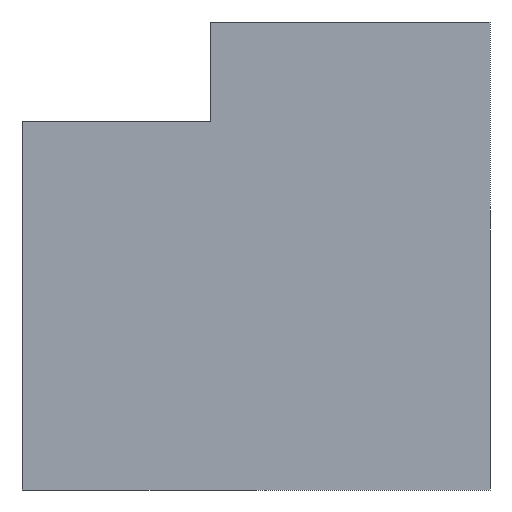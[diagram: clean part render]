
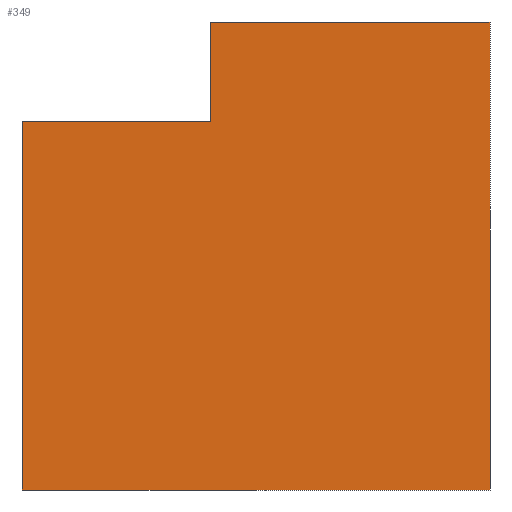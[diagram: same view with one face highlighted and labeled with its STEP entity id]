
A CAD part, left-side view. The second image highlights one B-rep face of the part: STEP entity #349.
In plain terms, the highlighted planar face has unit normal (-1, 0, 0).
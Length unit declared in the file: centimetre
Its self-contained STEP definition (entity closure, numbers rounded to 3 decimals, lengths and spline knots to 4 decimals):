
#21 = VECTOR ( 'NONE', #480, 100. ) ;
#49 = EDGE_CURVE ( 'NONE', #55, #237, #443, .T. ) ;
#55 = VERTEX_POINT ( 'NONE', #118 ) ;
#99 = DIRECTION ( 'NONE',  ( 0., 0., -1. ) ) ;
#101 = ORIENTED_EDGE ( 'NONE', *, *, #212, .T. ) ;
#106 = VECTOR ( 'NONE', #205, 100. ) ;
#116 = LINE ( 'NONE', #293, #248 ) ;
#118 = CARTESIAN_POINT ( 'NONE',  ( 0., 1000., 0. ) ) ;
#132 = ORIENTED_EDGE ( 'NONE', *, *, #373, .F. ) ;
#141 = ORIENTED_EDGE ( 'NONE', *, *, #169, .F. ) ;
#162 = CARTESIAN_POINT ( 'NONE',  ( 0., 1000., 1000. ) ) ;
#169 = EDGE_CURVE ( 'NONE', #408, #402, #378, .T. ) ;
#175 = EDGE_LOOP ( 'NONE', ( #389, #502, #101, #299, #132, #141 ) ) ;
#187 = CARTESIAN_POINT ( 'NONE',  ( 0., 0., 1000. ) ) ;
#205 = DIRECTION ( 'NONE',  ( 0., -1., 0. ) ) ;
#212 = EDGE_CURVE ( 'NONE', #565, #55, #116, .T. ) ;
#237 = VERTEX_POINT ( 'NONE', #416 ) ;
#248 = VECTOR ( 'NONE', #554, 100. ) ;
#255 = VECTOR ( 'NONE', #398, 100. ) ;
#256 = CARTESIAN_POINT ( 'NONE',  ( 0., 1000., 0. ) ) ;
#258 = AXIS2_PLACEMENT_3D ( 'NONE', #570, #352, #577 ) ;
#264 = PLANE ( 'NONE',  #258 ) ;
#275 = LINE ( 'NONE', #330, #445 ) ;
#286 = CARTESIAN_POINT ( 'NONE',  ( 0., 597.775, 1000. ) ) ;
#293 = CARTESIAN_POINT ( 'NONE',  ( 0., 1000., 1000. ) ) ;
#299 = ORIENTED_EDGE ( 'NONE', *, *, #49, .T. ) ;
#311 = FACE_OUTER_BOUND ( 'NONE', #175, .T. ) ;
#314 = CARTESIAN_POINT ( 'NONE',  ( 0., 597.775, 787.9331 ) ) ;
#330 = CARTESIAN_POINT ( 'NONE',  ( 0., 0., 1000. ) ) ;
#349 = ADVANCED_FACE ( 'NONE', ( #311 ), #264, .F. ) ;
#352 = DIRECTION ( 'NONE',  ( 1., 0., 0. ) ) ;
#373 = EDGE_CURVE ( 'NONE', #402, #237, #275, .T. ) ;
#378 = LINE ( 'NONE', #162, #106 ) ;
#389 = ORIENTED_EDGE ( 'NONE', *, *, #498, .F. ) ;
#398 = DIRECTION ( 'NONE',  ( 0., 0., 1. ) ) ;
#402 = VERTEX_POINT ( 'NONE', #187 ) ;
#408 = VERTEX_POINT ( 'NONE', #286 ) ;
#416 = CARTESIAN_POINT ( 'NONE',  ( 0., 0., 0. ) ) ;
#433 = CARTESIAN_POINT ( 'NONE',  ( 0., 597.775, 787.9331 ) ) ;
#442 = VECTOR ( 'NONE', #485, 100. ) ;
#443 = LINE ( 'NONE', #256, #21 ) ;
#445 = VECTOR ( 'NONE', #99, 100. ) ;
#480 = DIRECTION ( 'NONE',  ( 0., -1., 0. ) ) ;
#481 = LINE ( 'NONE', #433, #255 ) ;
#485 = DIRECTION ( 'NONE',  ( 0., -1., 0. ) ) ;
#489 = CARTESIAN_POINT ( 'NONE',  ( 0., 1000., 787.9331 ) ) ;
#493 = VERTEX_POINT ( 'NONE', #525 ) ;
#498 = EDGE_CURVE ( 'NONE', #493, #408, #481, .T. ) ;
#502 = ORIENTED_EDGE ( 'NONE', *, *, #549, .F. ) ;
#525 = CARTESIAN_POINT ( 'NONE',  ( 0., 597.775, 787.9331 ) ) ;
#530 = LINE ( 'NONE', #314, #442 ) ;
#549 = EDGE_CURVE ( 'NONE', #565, #493, #530, .T. ) ;
#554 = DIRECTION ( 'NONE',  ( 0., 0., -1. ) ) ;
#565 = VERTEX_POINT ( 'NONE', #489 ) ;
#570 = CARTESIAN_POINT ( 'NONE',  ( 0., 1000., 1000. ) ) ;
#577 = DIRECTION ( 'NONE',  ( 0., 0., -1. ) ) ;
